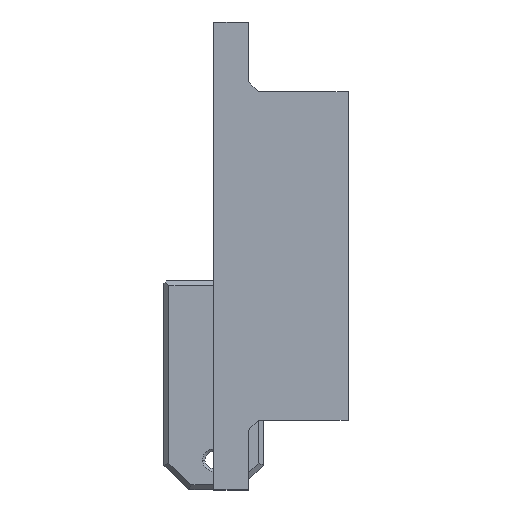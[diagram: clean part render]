
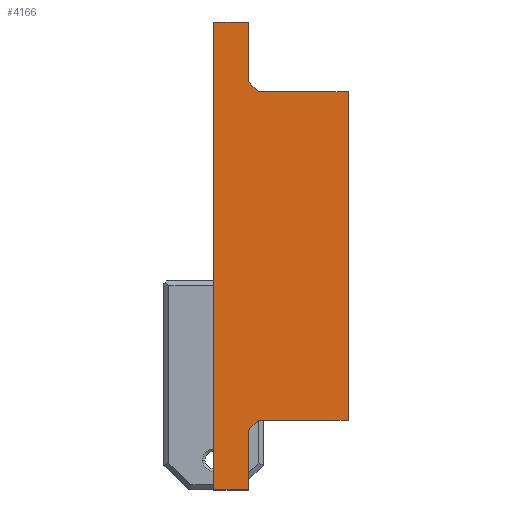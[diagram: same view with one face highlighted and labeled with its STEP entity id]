
A CAD part, top view. The second image highlights one B-rep face of the part: STEP entity #4166.
In plain terms, the highlighted planar face has unit normal (0, 0, 1).
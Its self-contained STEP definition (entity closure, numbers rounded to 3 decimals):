
#3937=CARTESIAN_POINT('Vertex',(13.817,-33.,10.)) ;
#3951=CARTESIAN_POINT('Vertex',(27.,-33.,10.)) ;
#3954=CARTESIAN_POINT('Line Origine',(20.408,-33.,10.)) ;
#4056=CARTESIAN_POINT('Vertex',(27.,3.,10.)) ;
#4059=CARTESIAN_POINT('Line Origine',(27.,-15.,10.)) ;
#4071=CARTESIAN_POINT('Axis2P3D Location',(0.,0.,10.)) ;
#4076=CARTESIAN_POINT('Line Origine',(0.,-23.5,10.)) ;
#4080=CARTESIAN_POINT('Vertex',(0.,0.,10.)) ;
#4082=CARTESIAN_POINT('Vertex',(0.,-47.,10.)) ;
#4085=CARTESIAN_POINT('Line Origine',(3.5,-47.,10.)) ;
#4089=CARTESIAN_POINT('Vertex',(7.,-47.,10.)) ;
#4092=CARTESIAN_POINT('Line Origine',(7.,-41.,10.)) ;
#4096=CARTESIAN_POINT('Vertex',(7.,-35.,10.)) ;
#4099=CARTESIAN_POINT('Line Origine',(8.,-34.,10.)) ;
#4103=CARTESIAN_POINT('Vertex',(9.,-33.,10.)) ;
#4106=CARTESIAN_POINT('Line Origine',(11.408,-33.,10.)) ;
#4111=CARTESIAN_POINT('Line Origine',(27.,18.,10.)) ;
#4115=CARTESIAN_POINT('Vertex',(27.,33.,10.)) ;
#4118=CARTESIAN_POINT('Line Origine',(18.,33.,10.)) ;
#4122=CARTESIAN_POINT('Vertex',(9.,33.,10.)) ;
#4125=CARTESIAN_POINT('Line Origine',(8.,34.,10.)) ;
#4129=CARTESIAN_POINT('Vertex',(7.,35.,10.)) ;
#4132=CARTESIAN_POINT('Line Origine',(7.,41.,10.)) ;
#4136=CARTESIAN_POINT('Vertex',(7.,47.,10.)) ;
#4139=CARTESIAN_POINT('Line Origine',(3.5,47.,10.)) ;
#4143=CARTESIAN_POINT('Vertex',(0.,47.,10.)) ;
#4146=CARTESIAN_POINT('Line Origine',(0.,23.5,10.)) ;
#3955=DIRECTION('Vector Direction',(1.,0.,0.)) ;
#4060=DIRECTION('Vector Direction',(0.,-1.,0.)) ;
#4072=DIRECTION('Axis2P3D Direction',(0.,-0.,1.)) ;
#4073=DIRECTION('Axis2P3D XDirection',(0.,1.,0.)) ;
#4077=DIRECTION('Vector Direction',(0.,-1.,0.)) ;
#4086=DIRECTION('Vector Direction',(1.,0.,0.)) ;
#4093=DIRECTION('Vector Direction',(0.,1.,0.)) ;
#4100=DIRECTION('Vector Direction',(0.707,0.707,0.)) ;
#4107=DIRECTION('Vector Direction',(1.,0.,0.)) ;
#4112=DIRECTION('Vector Direction',(0.,-1.,0.)) ;
#4119=DIRECTION('Vector Direction',(1.,0.,0.)) ;
#4126=DIRECTION('Vector Direction',(0.707,-0.707,0.)) ;
#4133=DIRECTION('Vector Direction',(0.,-1.,0.)) ;
#4140=DIRECTION('Vector Direction',(1.,0.,0.)) ;
#4147=DIRECTION('Vector Direction',(0.,1.,0.)) ;
#4074=AXIS2_PLACEMENT_3D('Plane Axis2P3D',#4071,#4072,#4073) ;
#4152=ORIENTED_EDGE('',*,*,#4084,.T.) ;
#4153=ORIENTED_EDGE('',*,*,#4091,.T.) ;
#4154=ORIENTED_EDGE('',*,*,#4098,.T.) ;
#4155=ORIENTED_EDGE('',*,*,#4105,.T.) ;
#4156=ORIENTED_EDGE('',*,*,#4110,.T.) ;
#4157=ORIENTED_EDGE('',*,*,#3958,.T.) ;
#4158=ORIENTED_EDGE('',*,*,#4063,.T.) ;
#4159=ORIENTED_EDGE('',*,*,#4117,.T.) ;
#4160=ORIENTED_EDGE('',*,*,#4124,.T.) ;
#4161=ORIENTED_EDGE('',*,*,#4131,.T.) ;
#4162=ORIENTED_EDGE('',*,*,#4138,.T.) ;
#4163=ORIENTED_EDGE('',*,*,#4145,.T.) ;
#4164=ORIENTED_EDGE('',*,*,#4150,.T.) ;
#3956=VECTOR('Line Direction',#3955,1.) ;
#4061=VECTOR('Line Direction',#4060,1.) ;
#4078=VECTOR('Line Direction',#4077,1.) ;
#4087=VECTOR('Line Direction',#4086,1.) ;
#4094=VECTOR('Line Direction',#4093,1.) ;
#4101=VECTOR('Line Direction',#4100,1.) ;
#4108=VECTOR('Line Direction',#4107,1.) ;
#4113=VECTOR('Line Direction',#4112,1.) ;
#4120=VECTOR('Line Direction',#4119,1.) ;
#4127=VECTOR('Line Direction',#4126,1.) ;
#4134=VECTOR('Line Direction',#4133,1.) ;
#4141=VECTOR('Line Direction',#4140,1.) ;
#4148=VECTOR('Line Direction',#4147,1.) ;
#4166=ADVANCED_FACE('PartBody',(#4165),#4075,.T.) ;
#3958=EDGE_CURVE('',#3938,#3952,#3957,.T.) ;
#4063=EDGE_CURVE('',#3952,#4057,#4062,.F.) ;
#4084=EDGE_CURVE('',#4081,#4083,#4079,.T.) ;
#4091=EDGE_CURVE('',#4083,#4090,#4088,.T.) ;
#4098=EDGE_CURVE('',#4090,#4097,#4095,.T.) ;
#4105=EDGE_CURVE('',#4097,#4104,#4102,.T.) ;
#4110=EDGE_CURVE('',#4104,#3938,#4109,.T.) ;
#4117=EDGE_CURVE('',#4057,#4116,#4114,.F.) ;
#4124=EDGE_CURVE('',#4116,#4123,#4121,.F.) ;
#4131=EDGE_CURVE('',#4123,#4130,#4128,.F.) ;
#4138=EDGE_CURVE('',#4130,#4137,#4135,.F.) ;
#4145=EDGE_CURVE('',#4137,#4144,#4142,.F.) ;
#4150=EDGE_CURVE('',#4144,#4081,#4149,.F.) ;
#4151=EDGE_LOOP('',(#4152,#4153,#4154,#4155,#4156,#4157,#4158,#4159,#4160,#4161,#4162,#4163,#4164)) ;
#4165=FACE_OUTER_BOUND('',#4151,.T.) ;
#3957=LINE('Line',#3954,#3956) ;
#4062=LINE('Line',#4059,#4061) ;
#4079=LINE('Line',#4076,#4078) ;
#4088=LINE('Line',#4085,#4087) ;
#4095=LINE('Line',#4092,#4094) ;
#4102=LINE('Line',#4099,#4101) ;
#4109=LINE('Line',#4106,#4108) ;
#4114=LINE('Line',#4111,#4113) ;
#4121=LINE('Line',#4118,#4120) ;
#4128=LINE('Line',#4125,#4127) ;
#4135=LINE('Line',#4132,#4134) ;
#4142=LINE('Line',#4139,#4141) ;
#4149=LINE('Line',#4146,#4148) ;
#4075=PLANE('Plane',#4074) ;
#3938=VERTEX_POINT('',#3937) ;
#3952=VERTEX_POINT('',#3951) ;
#4057=VERTEX_POINT('',#4056) ;
#4081=VERTEX_POINT('',#4080) ;
#4083=VERTEX_POINT('',#4082) ;
#4090=VERTEX_POINT('',#4089) ;
#4097=VERTEX_POINT('',#4096) ;
#4104=VERTEX_POINT('',#4103) ;
#4116=VERTEX_POINT('',#4115) ;
#4123=VERTEX_POINT('',#4122) ;
#4130=VERTEX_POINT('',#4129) ;
#4137=VERTEX_POINT('',#4136) ;
#4144=VERTEX_POINT('',#4143) ;
